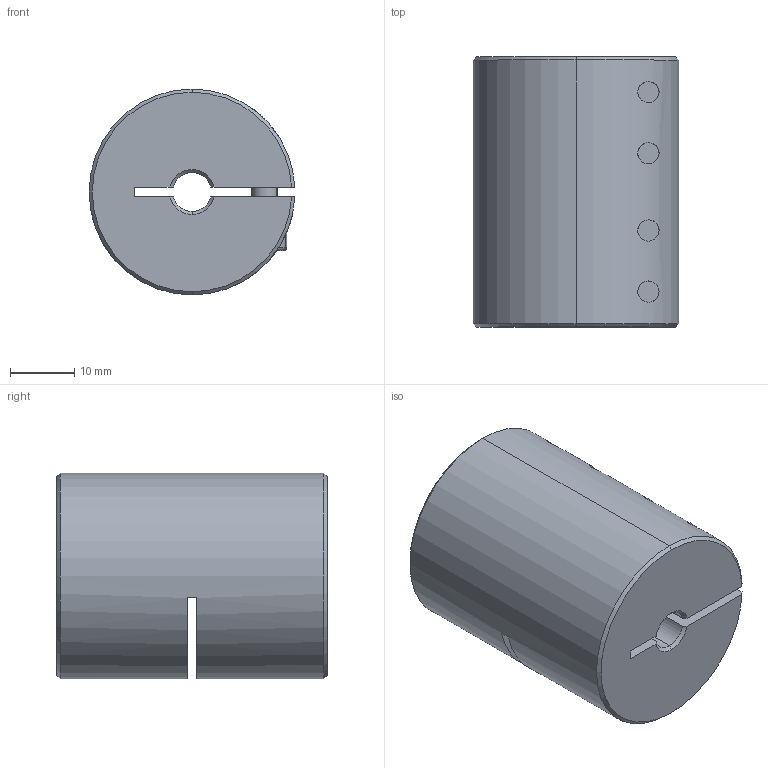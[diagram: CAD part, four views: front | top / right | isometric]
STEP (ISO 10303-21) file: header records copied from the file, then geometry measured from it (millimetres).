
FILE_DESCRIPTION (( 'STEP AP203' ), '1' );
FILE_NAME ('LL-B-D32L42-6-6.STEP', '2021-11-05T07:33:21', ( '' ), ( '' ), 'SwSTEP 2.0', 'SolidWorks 2018', '' );
FILE_SCHEMA (( 'CONFIG_CONTROL_DESIGN' ));
Length unit declared in the file: millimetre
Products named in the file (1): LL-B-D32L42-6-6
Bounding box: 31.98 x 42 x 32 mm (x, y, z)
Volume: 29976.5 mm3; surface area: 10256.9 mm2
Topology: 1 solids, 1 shells, 188 faces, 477 edges, 299 vertices
Faces by surface type: plane 86, cylinder 74, cone 20, torus 8
Entity records: 6205 total; most frequent: CARTESIAN_POINT 1529, DIRECTION 1006, ORIENTED_EDGE 938, EDGE_CURVE 469, AXIS2_PLACEMENT_3D 392, VERTEX_POINT 299, VECTOR 222, LINE 222
